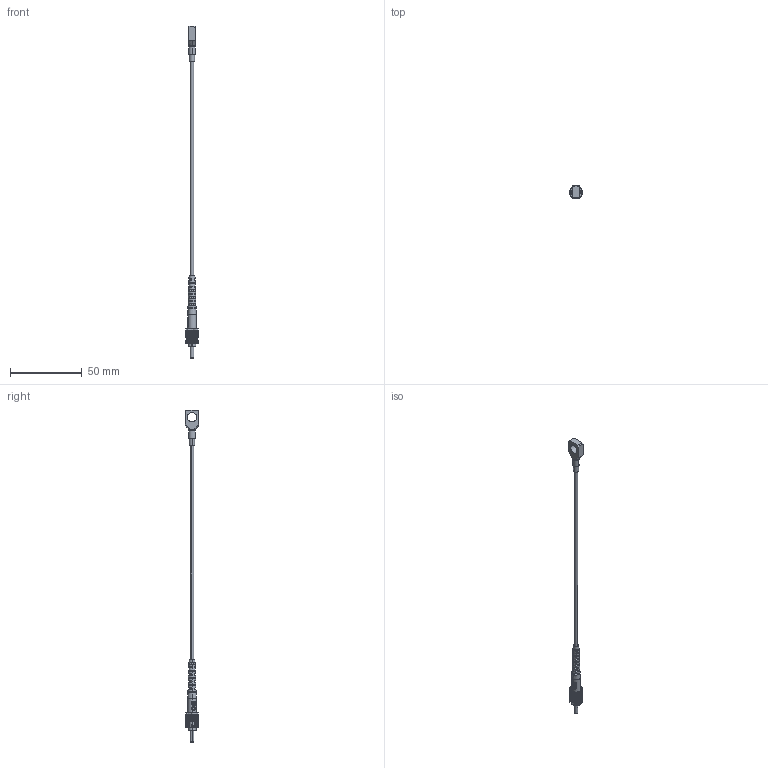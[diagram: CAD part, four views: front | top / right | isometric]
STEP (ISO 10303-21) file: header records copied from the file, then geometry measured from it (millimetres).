
FILE_DESCRIPTION (( 'STEP AP214' ), '1' );
FILE_NAME ('PRB-PF1-TP1.STEP', '2016-01-01T00:31:06', ( 'Daryl' ), ( 'Microsoft' ), 'SwSTEP 2.0', 'SolidWorks 2014', '' );
FILE_SCHEMA (( 'AUTOMOTIVE_DESIGN' ));
Length unit declared in the file: millimetre
Products named in the file (1): PRB-PF1-TP1
Bounding box: 9.02 x 9.5 x 232 mm (x, y, z)
Surface area: 3942 mm2 (no closed solid volume)
Topology: 0 solids, 9 shells, 590 faces, 1766 edges, 1167 vertices
Faces by surface type: plane 343, cylinder 213, bspline 24, cone 8, torus 2
Entity records: 27898 total; most frequent: CARTESIAN_POINT 5742, ORIENTED_EDGE 3426, DIRECTION 3075, EDGE_CURVE 1766, VERTEX_POINT 1167, VECTOR 1119, LINE 1119, AXIS2_PLACEMENT_3D 978
